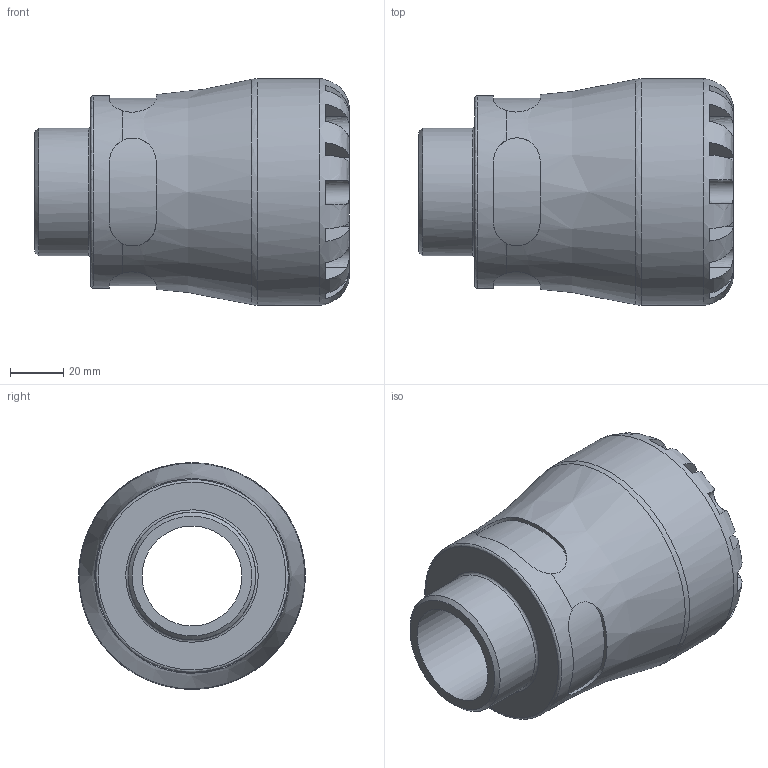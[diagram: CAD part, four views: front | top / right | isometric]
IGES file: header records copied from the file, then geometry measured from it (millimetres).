
Global section: file name: 150200050015; native system: Autodesk Inventor 2019; preprocessor: unknown; author: KIM; date: 20231017.191456; units: millimetre
Bounding box: 118 x 85 x 84.99 mm (x, y, z)
Volume: 296502.7 mm3; surface area: 53400.4 mm2
Topology: 1 solids, 1 shells, 100 faces, 273 edges, 177 vertices
Faces by surface type: bspline 100
